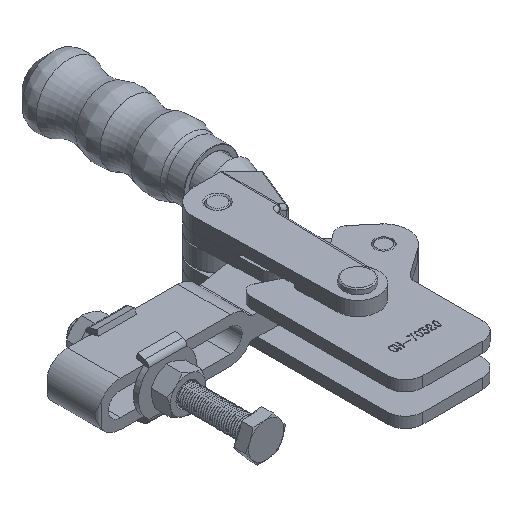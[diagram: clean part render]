
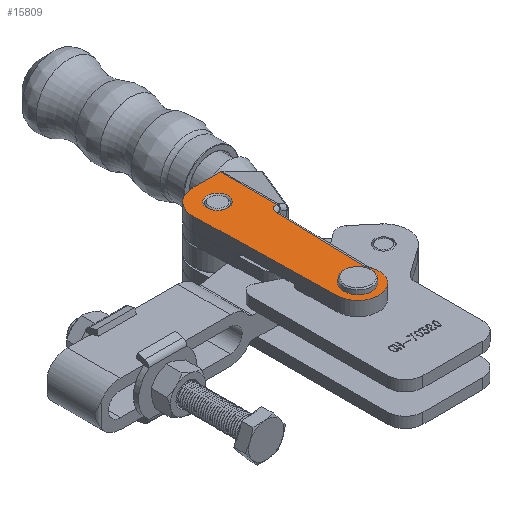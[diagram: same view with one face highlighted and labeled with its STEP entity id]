
A CAD part, isometric view. The second image highlights one B-rep face of the part: STEP entity #15809.
In plain terms, the highlighted planar face has unit normal (0, 0, 1).
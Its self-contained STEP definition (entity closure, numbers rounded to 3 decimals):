
#606=FACE_BOUND('',#2384,.T.);
#607=FACE_BOUND('',#2385,.T.);
#1089=PLANE('',#16950);
#1499=FACE_OUTER_BOUND('',#2383,.T.);
#2383=EDGE_LOOP('',(#11667,#11668,#11669,#11670,#11671,#11672,#11673,#11674));
#2384=EDGE_LOOP('',(#11675,#11676));
#2385=EDGE_LOOP('',(#11677,#11678));
#3462=LINE('',#27998,#4708);
#3469=LINE('',#28020,#4715);
#3484=LINE('',#28065,#4730);
#3485=LINE('',#28069,#4731);
#3486=LINE('',#28070,#4732);
#4708=VECTOR('',#19042,1000.);
#4715=VECTOR('',#19063,1000.);
#4730=VECTOR('',#19112,1000.);
#4731=VECTOR('',#19115,1000.);
#4732=VECTOR('',#19116,1000.);
#5631=CIRCLE('',#16879,3.);
#5632=CIRCLE('',#16880,3.);
#5635=CIRCLE('',#16884,3.);
#5636=CIRCLE('',#16885,3.);
#5661=CIRCLE('',#16921,6.);
#5664=CIRCLE('',#16931,7.);
#5673=CIRCLE('',#16951,2.);
#6762=VERTEX_POINT('',#27831);
#6763=VERTEX_POINT('',#27833);
#6766=VERTEX_POINT('',#27841);
#6767=VERTEX_POINT('',#27843);
#6808=VERTEX_POINT('',#27944);
#6809=VERTEX_POINT('',#27963);
#6820=VERTEX_POINT('',#27995);
#6821=VERTEX_POINT('',#27997);
#6826=VERTEX_POINT('',#28010);
#6842=VERTEX_POINT('',#28064);
#6843=VERTEX_POINT('',#28066);
#6844=VERTEX_POINT('',#28068);
#8573=EDGE_CURVE('',#6763,#6762,#5631,.T.);
#8574=EDGE_CURVE('',#6762,#6763,#5632,.T.);
#8578=EDGE_CURVE('',#6767,#6766,#5635,.T.);
#8579=EDGE_CURVE('',#6766,#6767,#5636,.T.);
#8628=EDGE_CURVE('',#6809,#6808,#5661,.T.);
#8643=EDGE_CURVE('',#6821,#6820,#3462,.T.);
#8651=EDGE_CURVE('',#6820,#6826,#5664,.T.);
#8655=EDGE_CURVE('',#6809,#6826,#3469,.T.);
#8679=EDGE_CURVE('',#6808,#6842,#3484,.T.);
#8680=EDGE_CURVE('',#6842,#6843,#5673,.T.);
#8681=EDGE_CURVE('',#6843,#6844,#3485,.T.);
#8682=EDGE_CURVE('',#6844,#6821,#3486,.T.);
#11667=ORIENTED_EDGE('',*,*,#8628,.T.);
#11668=ORIENTED_EDGE('',*,*,#8679,.T.);
#11669=ORIENTED_EDGE('',*,*,#8680,.T.);
#11670=ORIENTED_EDGE('',*,*,#8681,.T.);
#11671=ORIENTED_EDGE('',*,*,#8682,.T.);
#11672=ORIENTED_EDGE('',*,*,#8643,.T.);
#11673=ORIENTED_EDGE('',*,*,#8651,.T.);
#11674=ORIENTED_EDGE('',*,*,#8655,.F.);
#11675=ORIENTED_EDGE('',*,*,#8578,.T.);
#11676=ORIENTED_EDGE('',*,*,#8579,.T.);
#11677=ORIENTED_EDGE('',*,*,#8573,.T.);
#11678=ORIENTED_EDGE('',*,*,#8574,.T.);
#15809=ADVANCED_FACE('',(#1499,#606,#607),#1089,.T.);
#16879=AXIS2_PLACEMENT_3D('',#27834,#18912,#18913);
#16880=AXIS2_PLACEMENT_3D('',#27835,#18914,#18915);
#16884=AXIS2_PLACEMENT_3D('',#27844,#18923,#18924);
#16885=AXIS2_PLACEMENT_3D('',#27845,#18925,#18926);
#16921=AXIS2_PLACEMENT_3D('',#27964,#19020,#19021);
#16931=AXIS2_PLACEMENT_3D('',#28012,#19055,#19056);
#16950=AXIS2_PLACEMENT_3D('',#28063,#19110,#19111);
#16951=AXIS2_PLACEMENT_3D('',#28067,#19113,#19114);
#18912=DIRECTION('center_axis',(0.,0.,-1.));
#18913=DIRECTION('ref_axis',(1.,0.,0.));
#18914=DIRECTION('center_axis',(0.,0.,-1.));
#18915=DIRECTION('ref_axis',(1.,0.,0.));
#18923=DIRECTION('center_axis',(0.,0.,-1.));
#18924=DIRECTION('ref_axis',(1.,0.,0.));
#18925=DIRECTION('center_axis',(0.,0.,-1.));
#18926=DIRECTION('ref_axis',(1.,0.,0.));
#19020=DIRECTION('center_axis',(0.,0.,1.));
#19021=DIRECTION('ref_axis',(1.,0.,0.));
#19042=DIRECTION('',(-1.,0.,0.));
#19055=DIRECTION('center_axis',(0.,0.,1.));
#19056=DIRECTION('ref_axis',(1.,0.,0.));
#19063=DIRECTION('',(-0.025,1.,0.));
#19110=DIRECTION('center_axis',(0.,0.,1.));
#19111=DIRECTION('ref_axis',(1.,0.,0.));
#19112=DIRECTION('',(0.025,1.,0.));
#19113=DIRECTION('center_axis',(0.,0.,-1.));
#19114=DIRECTION('ref_axis',(1.,0.,0.));
#19115=DIRECTION('',(1.,0.,0.));
#19116=DIRECTION('',(0.,1.,0.));
#27831=CARTESIAN_POINT('',(1262.319,62.312,20.));
#27833=CARTESIAN_POINT('',(1268.319,62.312,20.));
#27834=CARTESIAN_POINT('Origin',(1265.319,62.312,20.));
#27835=CARTESIAN_POINT('Origin',(1265.319,62.312,20.));
#27841=CARTESIAN_POINT('',(1262.319,22.312,20.));
#27843=CARTESIAN_POINT('',(1268.319,22.312,20.));
#27844=CARTESIAN_POINT('Origin',(1265.319,22.312,20.));
#27845=CARTESIAN_POINT('Origin',(1265.319,22.312,20.));
#27944=CARTESIAN_POINT('',(1270.398,25.506,20.));
#27963=CARTESIAN_POINT('',(1259.319,22.312,20.));
#27964=CARTESIAN_POINT('Origin',(1265.319,22.312,20.));
#27995=CARTESIAN_POINT('',(1265.319,69.312,20.));
#27997=CARTESIAN_POINT('',(1273.08,69.312,20.));
#27998=CARTESIAN_POINT('',(0.,69.312,20.));
#28010=CARTESIAN_POINT('',(1258.319,62.312,20.));
#28012=CARTESIAN_POINT('Origin',(1265.319,62.312,20.));
#28020=CARTESIAN_POINT('',(1259.089,31.477,20.));
#28063=CARTESIAN_POINT('Origin',(0.,0.,20.));
#28064=CARTESIAN_POINT('',(1271.045,51.362,20.));
#28065=CARTESIAN_POINT('',(1271.045,51.362,20.));
#28066=CARTESIAN_POINT('',(1273.044,53.312,20.));
#28067=CARTESIAN_POINT('Origin',(1273.044,51.312,20.));
#28068=CARTESIAN_POINT('',(1273.08,53.312,20.));
#28069=CARTESIAN_POINT('',(0.,53.312,20.));
#28070=CARTESIAN_POINT('',(1273.08,69.312,20.));
